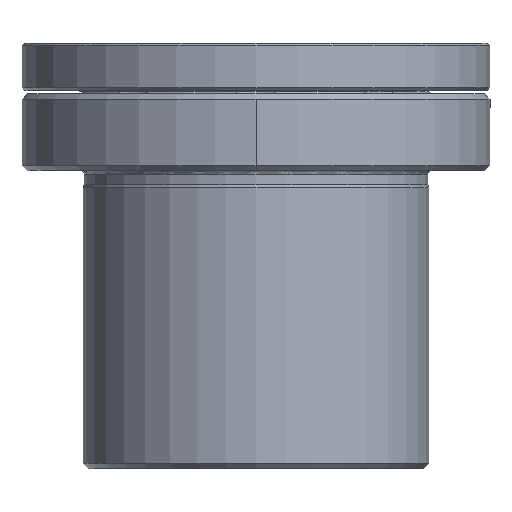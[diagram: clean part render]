
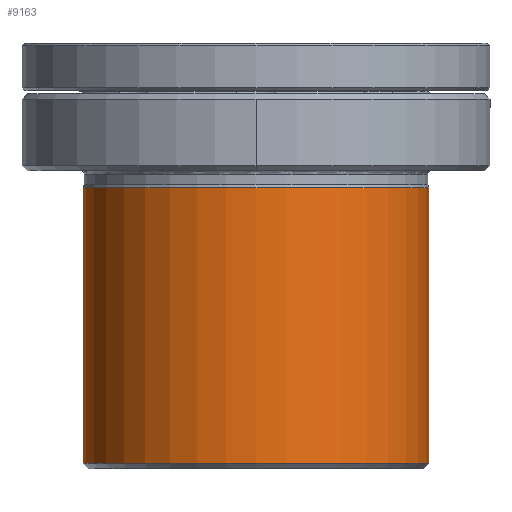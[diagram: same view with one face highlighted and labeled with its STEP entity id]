
A CAD part, front view. The second image highlights one B-rep face of the part: STEP entity #9163.
In plain terms, the highlighted cylindrical face has radius 32.5 mm (diameter 65 mm), a partial arc.
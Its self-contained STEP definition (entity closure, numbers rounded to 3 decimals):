
#496 = LINE ( 'NONE', #614, #613 ) ;
#506 = CARTESIAN_POINT ( 'NONE',  ( -32.5, 0., -18.2 ) ) ;
#507 = LINE ( 'NONE', #535, #534 ) ;
#508 = CARTESIAN_POINT ( 'NONE',  ( 32.5, 0., -18.2 ) ) ;
#533 = DIRECTION ( 'NONE',  ( 0., 0., 1. ) ) ;
#534 = VECTOR ( 'NONE', #533, 1000. ) ;
#535 = CARTESIAN_POINT ( 'NONE',  ( 32.5, 0., -70. ) ) ;
#612 = DIRECTION ( 'NONE',  ( 0., 0., 1. ) ) ;
#613 = VECTOR ( 'NONE', #612, 1000. ) ;
#614 = CARTESIAN_POINT ( 'NONE',  ( -32.5, 0., -70. ) ) ;
#1632 = DIRECTION ( 'NONE',  ( 1., 0., 0. ) ) ;
#1633 = DIRECTION ( 'NONE',  ( 0., 0., 1. ) ) ;
#1634 = CARTESIAN_POINT ( 'NONE',  ( 0., 0., -18.2 ) ) ;
#1635 = AXIS2_PLACEMENT_3D ( 'NONE', #1634, #1633, #1632 ) ;
#1636 = CIRCLE ( 'NONE', #1635, 32.5 ) ;
#1957 = DIRECTION ( 'NONE',  ( 1., 0., 0. ) ) ;
#1958 = DIRECTION ( 'NONE',  ( 0., 0., 1. ) ) ;
#1959 = CARTESIAN_POINT ( 'NONE',  ( 0., 0., -70. ) ) ;
#1960 = AXIS2_PLACEMENT_3D ( 'NONE', #1959, #1958, #1957 ) ;
#1964 = CIRCLE ( 'NONE', #1960, 32.5 ) ;
#2862 = DIRECTION ( 'NONE',  ( 1., 0., 0. ) ) ;
#2863 = DIRECTION ( 'NONE',  ( 0., 0., 1. ) ) ;
#2864 = AXIS2_PLACEMENT_3D ( 'NONE', #2867, #2863, #2862 ) ;
#2865 = CYLINDRICAL_SURFACE ( 'NONE', #2864, 32.5 ) ;
#2867 = CARTESIAN_POINT ( 'NONE',  ( 0., 0., -70. ) ) ;
#2868 = FACE_OUTER_BOUND ( 'NONE', #9164, .T. ) ;
#7446 = CARTESIAN_POINT ( 'NONE',  ( -32.5, 0., -70. ) ) ;
#7599 = CARTESIAN_POINT ( 'NONE',  ( 32.5, 0., -70. ) ) ;
#8238 = EDGE_CURVE ( 'NONE', #10964, #8239, #496, .T. ) ;
#8239 = VERTEX_POINT ( 'NONE', #506 ) ;
#8256 = VERTEX_POINT ( 'NONE', #508 ) ;
#8258 = EDGE_CURVE ( 'NONE', #11052, #8256, #507, .T. ) ;
#8614 = EDGE_CURVE ( 'NONE', #8239, #8256, #1636, .T. ) ;
#8702 = EDGE_CURVE ( 'NONE', #10964, #11052, #1964, .T. ) ;
#9152 = ORIENTED_EDGE ( 'NONE', *, *, #8238, .F. ) ;
#9153 = ORIENTED_EDGE ( 'NONE', *, *, #8702, .T. ) ;
#9163 = ADVANCED_FACE ( 'NONE', ( #2868 ), #2865, .T. ) ;
#9164 = EDGE_LOOP ( 'NONE', ( #9152, #9153, #9280, #9281 ) ) ;
#9280 = ORIENTED_EDGE ( 'NONE', *, *, #8258, .T. ) ;
#9281 = ORIENTED_EDGE ( 'NONE', *, *, #8614, .F. ) ;
#10964 = VERTEX_POINT ( 'NONE', #7446 ) ;
#11052 = VERTEX_POINT ( 'NONE', #7599 ) ;
